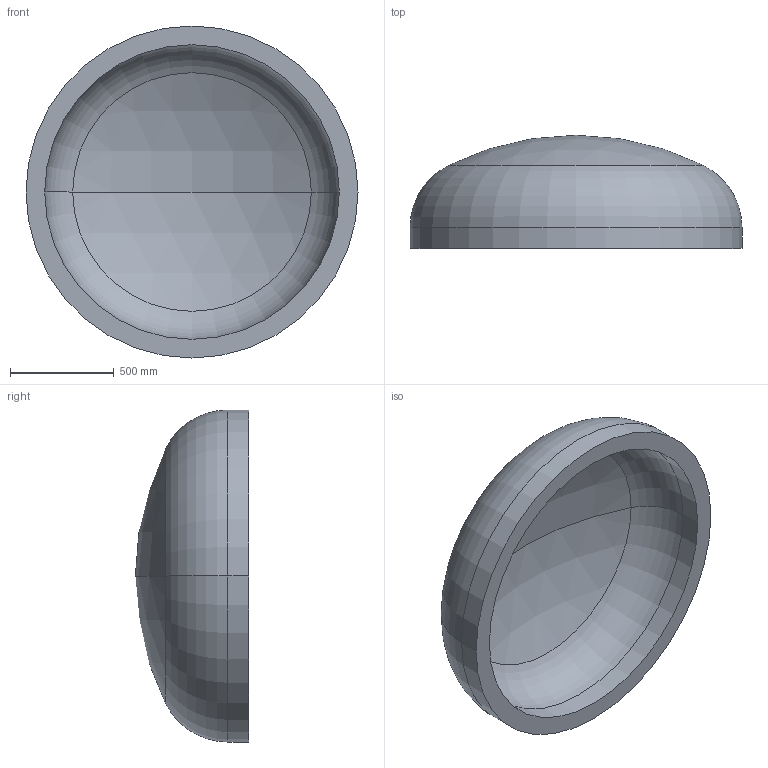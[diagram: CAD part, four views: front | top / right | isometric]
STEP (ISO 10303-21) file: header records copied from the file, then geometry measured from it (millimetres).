
FILE_DESCRIPTION (( 'STEP AP203' ), '1' );
FILE_NAME ('DIN 28013 Korbbogenform_-_Boden DIN 28013 - 1600 x 100 - I - s=90.step', '2016-07-01T11:27:49', ( '' ), ( '' ), 'SwSTEP 2.0', 'SolidWorks 2013', '' );
FILE_SCHEMA (( 'CONFIG_CONTROL_DESIGN' ));
Length unit declared in the file: millimetre
Products named in the file (1): DIN 28013 Korbbogenform_-_Boden DIN 28013 - 1600 x 100 - I - s=90
Bounding box: 1600 x 545.34 x 1600 mm (x, y, z)
Volume: 275651312.7 mm3; surface area: 6569490.2 mm2
Topology: 1 solids, 1 shells, 13 faces, 24 edges, 14 vertices
Faces by surface type: torus 4, cylinder 4, sphere 4, plane 1
Entity records: 407 total; most frequent: DIRECTION 72, CARTESIAN_POINT 52, ORIENTED_EDGE 48, AXIS2_PLACEMENT_3D 34, EDGE_CURVE 24, CIRCLE 20, EDGE_LOOP 14, VERTEX_POINT 14
